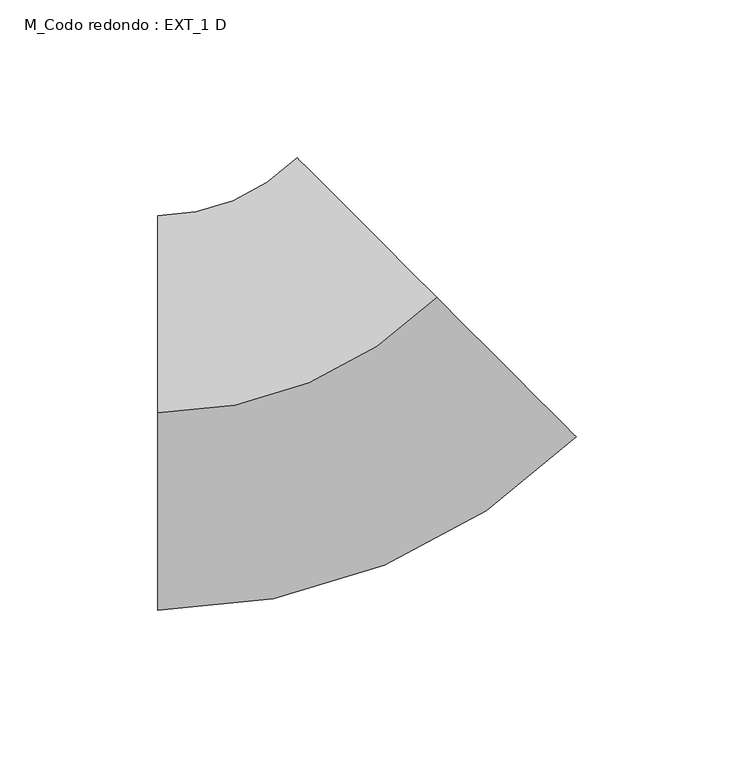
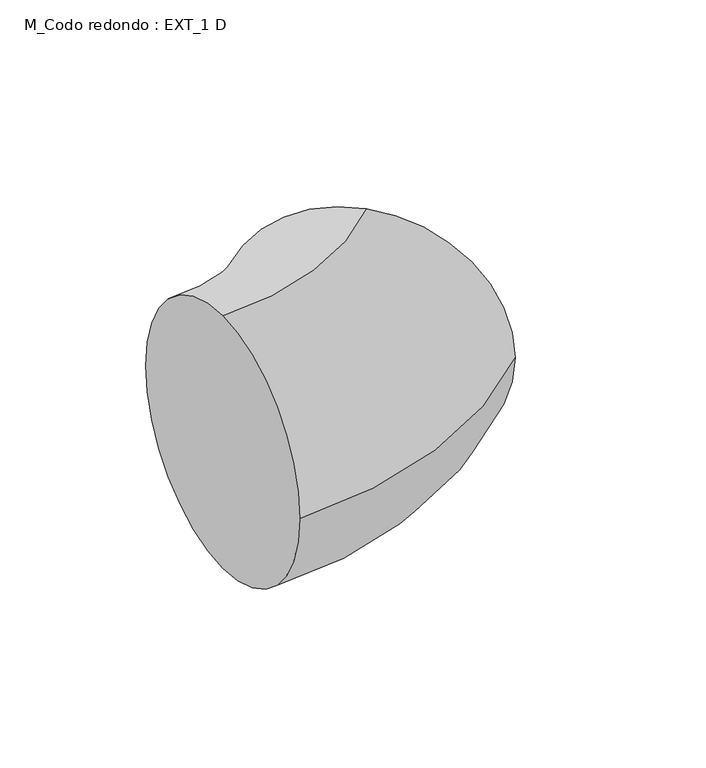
"""IFC4 building model written with IfcOpenShell, lengths in millimetres: duct fitting geometry, M_Codo redondo : EXT_1 D."""

from ifc_helpers import new_model, si_unit, point, frame, origin, place, context, project, spatial, circle_curve, ellipse_curve, trimmed, source, transform, mapped, element, save
from ifc_brep_helpers import plane_surface, revolved_surface, advanced_brep


def m_codo_redondo_ext_1_d_0d53d154(model_context):
    return source(origin(), model_context, "Body", "AdvancedBrep", [
        advanced_brep(
        [(-51.7431682, 0.0, 62.5), (-51.7431682, 62.5, 0.0), (-51.7431682, 0.0, -62.5), (-51.7431682, -62.5, 0.0), (36.6046956, 36.571187, 62.5), (80.7786275, -7.6432195, 0.0), (36.6046956, 36.571187, -62.5), (-7.5692363, 80.7855935, 0.0)],
        [
            (0, 1, circle_curve(frame((-51.7431682, 0.0, 0.0), z_axis=(-1.0, 0.0, 0.0), x_axis=(0.0, 1.0, 0.0)), 62.5)),
            (1, 2, circle_curve(frame((-51.7431682, 0.0, 0.0), z_axis=(-1.0, 0.0, 0.0), x_axis=(0.0, 1.0, 0.0)), 62.5)),
            (2, 3, circle_curve(frame((-51.7431682, 0.0, 0.0), z_axis=(-1.0, 0.0, 0.0), x_axis=(0.0, 1.0, 0.0)), 62.5)),
            (3, 0, circle_curve(frame((-51.7431682, 0.0, 0.0), z_axis=(-1.0, 0.0, 0.0), x_axis=(0.0, 1.0, 0.0)), 62.5)),
            (4, 5, circle_curve(frame((36.6046956, 36.571187, 0.0), z_axis=(0.7074305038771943, 0.7067829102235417, 0.0), x_axis=(-0.7067829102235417, 0.7074305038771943, 0.0)), 62.5)),
            (5, 6, circle_curve(frame((36.6046956, 36.571187, 0.0), z_axis=(0.7074305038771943, 0.7067829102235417, 0.0), x_axis=(-0.7067829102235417, 0.7074305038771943, 0.0)), 62.5)),
            (6, 7, circle_curve(frame((36.6046956, 36.571187, 0.0), z_axis=(0.7074305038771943, 0.7067829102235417, 0.0), x_axis=(-0.7067829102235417, 0.7074305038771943, 0.0)), 62.5)),
            (7, 4, circle_curve(frame((36.6046956, 36.571187, 0.0), z_axis=(0.7074305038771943, 0.7067829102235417, 0.0), x_axis=(-0.7067829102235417, 0.7074305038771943, 0.0)), 62.5)),
            (7, 1, circle_curve(frame((-51.7431682, 125.0, 0.0), z_axis=(0.0, 0.0, -1.0), x_axis=(0.0, -1.0, 0.0)), 62.5)),
            (0, 4, circle_curve(frame((-51.7431682, 125.0, 62.5), z_axis=(0.0, 0.0, 1.0), x_axis=(0.0, -1.0, 0.0)), 125.0)),
            (6, 2, circle_curve(frame((-51.7431682, 125.0, -62.5), z_axis=(0.0, 0.0, -1.0), x_axis=(0.0, -1.0, 0.0)), 125.0)),
            (5, 3, circle_curve(frame((-51.7431682, 125.0, 0.0), z_axis=(0.0, 0.0, -1.0), x_axis=(0.0, -1.0, 0.0)), 187.5)),
        ],
        [
            plane_surface(frame((-51.7431682, 0.0, 0.0), z_axis=(-1.0, 0.0, 0.0), x_axis=(0.0, 0.0, 1.0))),
            plane_surface(frame((36.6046956, 36.571187, 0.0), z_axis=(0.7074305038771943, 0.7067829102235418, 0.0), x_axis=(0.0, 0.0, 1.0))),
            revolved_surface(trimmed(ellipse_curve(frame((-51.7431682, 0.0, 0.0), z_axis=(-1.0, 0.0, 0.0), x_axis=(0.0, 1.0, 0.0)), 62.5, 62.5), [point((-51.7431682, 0.0, 62.5))], [point((-51.7431682, 62.5, 0.0))], True, "CARTESIAN"), (-51.7431682, 125.0, 0.0), (0.0, 0.0, 1.0)),
            revolved_surface(trimmed(ellipse_curve(frame((-51.7431682, 0.0, 0.0), z_axis=(-1.0, 0.0, 0.0), x_axis=(0.0, 1.0, 0.0)), 62.5, 62.5), [point((-51.7431682, 62.5, 0.0))], [point((-51.7431682, 0.0, -62.5))], True, "CARTESIAN"), (-51.7431682, 125.0, 0.0), (0.0, 0.0, 1.0)),
            revolved_surface(trimmed(ellipse_curve(frame((-51.7431682, 0.0, 0.0), z_axis=(-1.0, 0.0, 0.0), x_axis=(0.0, 1.0, 0.0)), 62.5, 62.5), [point((-51.7431682, 0.0, -62.5))], [point((-51.7431682, -62.5, 0.0))], True, "CARTESIAN"), (-51.7431682, 125.0, 0.0), (0.0, 0.0, 1.0)),
            revolved_surface(trimmed(ellipse_curve(frame((-51.7431682, 0.0, 0.0), z_axis=(-1.0, 0.0, 0.0), x_axis=(0.0, 1.0, 0.0)), 62.5, 62.5), [point((-51.7431682, -62.5, 0.0))], [point((-51.7431682, 0.0, 62.5))], True, "CARTESIAN"), (-51.7431682, 125.0, 0.0), (0.0, 0.0, 1.0)),
        ],
        [
            (0, [[1, 2, 3, 4]]),
            (1, [[5, 6, 7, 8]]),
            (2, [[9, -1, 10, -8]]),
            (3, [[11, -2, -9, -7]]),
            (4, [[12, -3, -11, -6]]),
            (5, [[-10, -4, -12, -5]]),
        ],
    ),
    ])


if __name__ == "__main__":
    model = new_model("IFC4")
    model_context = context("Model", 3, world=origin())
    ifc_project = project(units=[si_unit("LENGTHUNIT", "METRE", prefix="MILLI")], contexts=[model_context])
    site = spatial("IfcSite", under=ifc_project)
    building = spatial("IfcBuilding", under=site)
    placement = place(None, origin())
    m_codo_redondo_ext_1_d_shape = m_codo_redondo_ext_1_d_0d53d154(model_context)
    element("IfcDuctFitting", 1, ObjectType="M_Codo redondo : EXT_1 D", at=placement, inside=building, context=model_context, shape_type="MappedRepresentation", body=[
        mapped(m_codo_redondo_ext_1_d_shape, transform((0.0, 0.0, 0.0), x_axis=(1.0, 0.0, 0.0), y_axis=(0.0, 1.0, 0.0), z_axis=(0.0, 0.0, 1.0))),
    ])
    save(model, "model.ifc")
